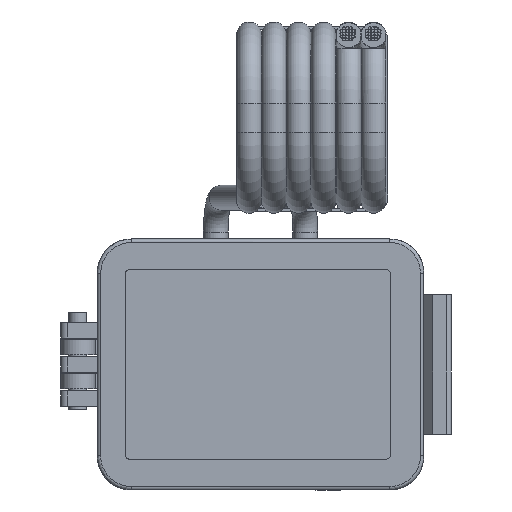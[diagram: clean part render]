
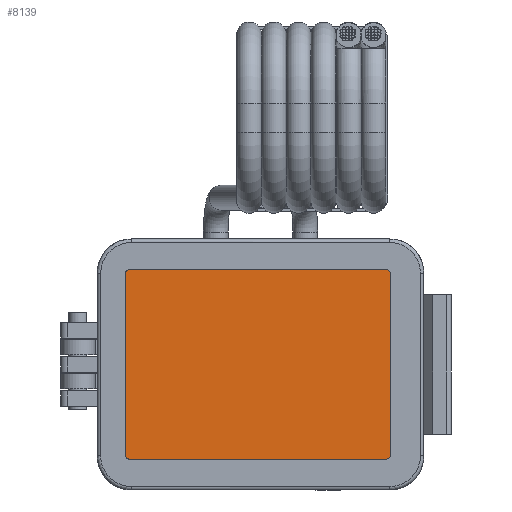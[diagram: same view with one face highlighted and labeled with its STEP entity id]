
A CAD part, front view. The second image highlights one B-rep face of the part: STEP entity #8139.
In plain terms, the highlighted planar face has unit normal (0, -1, 0).
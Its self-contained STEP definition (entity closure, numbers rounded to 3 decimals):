
#91=B_SPLINE_CURVE_WITH_KNOTS('',3,(#13393,#13394,#13395,#13396,#13397,
#13398),.UNSPECIFIED.,.F.,.F.,(4,2,4),(-7.065,-3.137,
0.),.UNSPECIFIED.);
#93=B_SPLINE_CURVE_WITH_KNOTS('',3,(#13429,#13430,#13431,#13432,#13433,
#13434),.UNSPECIFIED.,.F.,.F.,(4,2,4),(-7.065,-2.835,
0.),.UNSPECIFIED.);
#95=B_SPLINE_CURVE_WITH_KNOTS('',3,(#13464,#13465,#13466,#13467,#13468,
#13469),.UNSPECIFIED.,.F.,.F.,(4,2,4),(-7.065,-3.138,
0.),.UNSPECIFIED.);
#97=B_SPLINE_CURVE_WITH_KNOTS('',3,(#13499,#13500,#13501,#13502,#13503,
#13504),.UNSPECIFIED.,.F.,.F.,(4,2,4),(-7.065,-2.835,
0.),.UNSPECIFIED.);
#486=PLANE('',#8863);
#861=FACE_OUTER_BOUND('',#1358,.T.);
#1358=EDGE_LOOP('',(#6546,#6547,#6548,#6549,#6550,#6551,#6552,#6553));
#2348=LINE('',#13405,#3053);
#2352=LINE('',#13440,#3057);
#2356=LINE('',#13475,#3061);
#2359=LINE('',#13507,#3064);
#3053=VECTOR('',#10577,10.);
#3057=VECTOR('',#10583,10.);
#3061=VECTOR('',#10589,10.);
#3064=VECTOR('',#10594,10.);
#3780=VERTEX_POINT('',#13390);
#3781=VERTEX_POINT('',#13392);
#3783=VERTEX_POINT('',#13403);
#3785=VERTEX_POINT('',#13427);
#3787=VERTEX_POINT('',#13438);
#3789=VERTEX_POINT('',#13462);
#3791=VERTEX_POINT('',#13473);
#3793=VERTEX_POINT('',#13497);
#4762=EDGE_CURVE('',#3780,#3781,#91,.T.);
#4766=EDGE_CURVE('',#3783,#3780,#2348,.T.);
#4769=EDGE_CURVE('',#3785,#3783,#93,.T.);
#4772=EDGE_CURVE('',#3787,#3785,#2352,.T.);
#4775=EDGE_CURVE('',#3789,#3787,#95,.T.);
#4778=EDGE_CURVE('',#3791,#3789,#2356,.T.);
#4781=EDGE_CURVE('',#3793,#3791,#97,.T.);
#4783=EDGE_CURVE('',#3781,#3793,#2359,.T.);
#6546=ORIENTED_EDGE('',*,*,#4762,.F.);
#6547=ORIENTED_EDGE('',*,*,#4766,.F.);
#6548=ORIENTED_EDGE('',*,*,#4769,.F.);
#6549=ORIENTED_EDGE('',*,*,#4772,.F.);
#6550=ORIENTED_EDGE('',*,*,#4775,.F.);
#6551=ORIENTED_EDGE('',*,*,#4778,.F.);
#6552=ORIENTED_EDGE('',*,*,#4781,.F.);
#6553=ORIENTED_EDGE('',*,*,#4783,.F.);
#8139=ADVANCED_FACE('',(#861),#486,.T.);
#8863=AXIS2_PLACEMENT_3D('',#13508,#10595,#10596);
#10577=DIRECTION('',(0.,0.,1.));
#10583=DIRECTION('',(-1.,0.,0.));
#10589=DIRECTION('',(0.,0.,-1.));
#10594=DIRECTION('',(1.,0.,0.));
#10595=DIRECTION('center_axis',(0.,-1.,0.));
#10596=DIRECTION('ref_axis',(0.,0.,-1.));
#13390=CARTESIAN_POINT('',(271.069,-9.703,360.339));
#13392=CARTESIAN_POINT('',(271.559,-9.703,360.842));
#13393=CARTESIAN_POINT('Ctrl Pts',(271.069,-9.703,360.339));
#13394=CARTESIAN_POINT('Ctrl Pts',(271.069,-9.703,360.491));
#13395=CARTESIAN_POINT('Ctrl Pts',(271.138,-9.703,360.637));
#13396=CARTESIAN_POINT('Ctrl Pts',(271.334,-9.703,360.802));
#13397=CARTESIAN_POINT('Ctrl Pts',(271.446,-9.703,360.842));
#13398=CARTESIAN_POINT('Ctrl Pts',(271.559,-9.703,360.842));
#13403=CARTESIAN_POINT('',(271.069,-9.703,333.846));
#13405=CARTESIAN_POINT('',(271.069,-9.703,333.846));
#13427=CARTESIAN_POINT('',(271.559,-9.703,333.342));
#13429=CARTESIAN_POINT('Ctrl Pts',(271.559,-9.703,333.342));
#13430=CARTESIAN_POINT('Ctrl Pts',(271.406,-9.703,333.342));
#13431=CARTESIAN_POINT('Ctrl Pts',(271.258,-9.703,333.417));
#13432=CARTESIAN_POINT('Ctrl Pts',(271.104,-9.703,333.628));
#13433=CARTESIAN_POINT('Ctrl Pts',(271.069,-9.703,333.736));
#13434=CARTESIAN_POINT('Ctrl Pts',(271.069,-9.703,333.846));
#13438=CARTESIAN_POINT('',(309.078,-9.703,333.342));
#13440=CARTESIAN_POINT('',(309.078,-9.703,333.342));
#13462=CARTESIAN_POINT('',(309.569,-9.703,333.846));
#13464=CARTESIAN_POINT('Ctrl Pts',(309.569,-9.703,333.846));
#13465=CARTESIAN_POINT('Ctrl Pts',(309.569,-9.703,333.693));
#13466=CARTESIAN_POINT('Ctrl Pts',(309.499,-9.703,333.548));
#13467=CARTESIAN_POINT('Ctrl Pts',(309.303,-9.703,333.383));
#13468=CARTESIAN_POINT('Ctrl Pts',(309.192,-9.703,333.342));
#13469=CARTESIAN_POINT('Ctrl Pts',(309.078,-9.703,333.342));
#13473=CARTESIAN_POINT('',(309.569,-9.703,360.339));
#13475=CARTESIAN_POINT('',(309.569,-9.703,360.339));
#13497=CARTESIAN_POINT('',(309.078,-9.703,360.842));
#13499=CARTESIAN_POINT('Ctrl Pts',(309.078,-9.703,360.842));
#13500=CARTESIAN_POINT('Ctrl Pts',(309.232,-9.703,360.842));
#13501=CARTESIAN_POINT('Ctrl Pts',(309.38,-9.703,360.767));
#13502=CARTESIAN_POINT('Ctrl Pts',(309.533,-9.703,360.556));
#13503=CARTESIAN_POINT('Ctrl Pts',(309.569,-9.703,360.449));
#13504=CARTESIAN_POINT('Ctrl Pts',(309.569,-9.703,360.339));
#13507=CARTESIAN_POINT('',(271.559,-9.703,360.842));
#13508=CARTESIAN_POINT('Origin',(290.319,-9.703,333.342));
